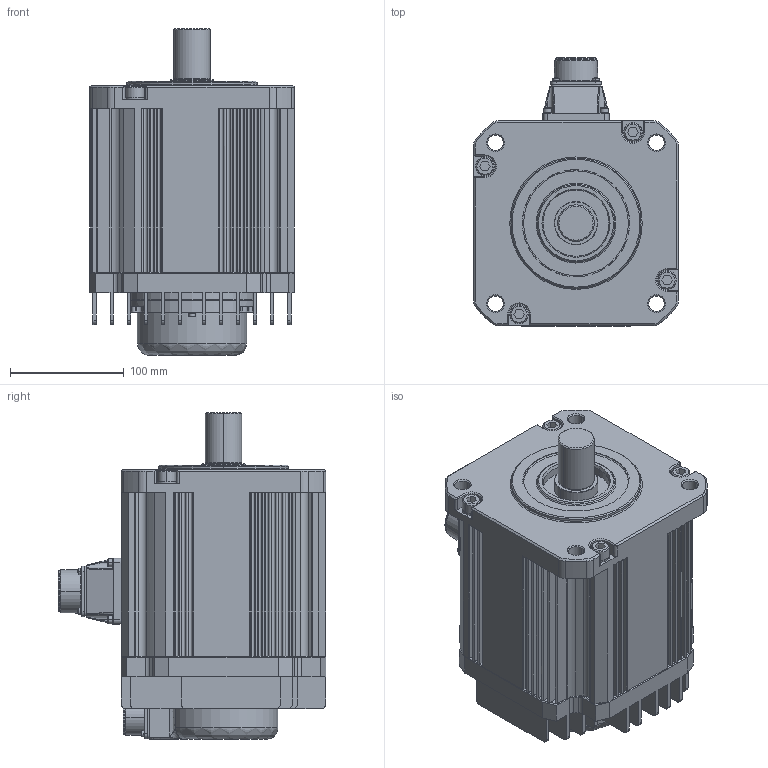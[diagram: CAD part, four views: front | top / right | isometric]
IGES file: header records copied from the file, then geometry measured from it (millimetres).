
Start section:  PTC IGES file: tsm1808n8000_outline.igs
Global section: file name: tsm1808n8000_outline.igs; native system: Creo Parametric by PTC Inc.; preprocessor: 2019030; author: tec1068; organization: Unknown; date: 20220614.093739; units: millimetre
Bounding box: 180 x 235.32 x 287 mm (x, y, z)
Surface area: 344794.7 mm2 (no closed solid volume)
Topology: 0 solids, 0 shells, 1407 faces, 7088 edges, 7034 vertices
Faces by surface type: bspline 745, revolution 662
